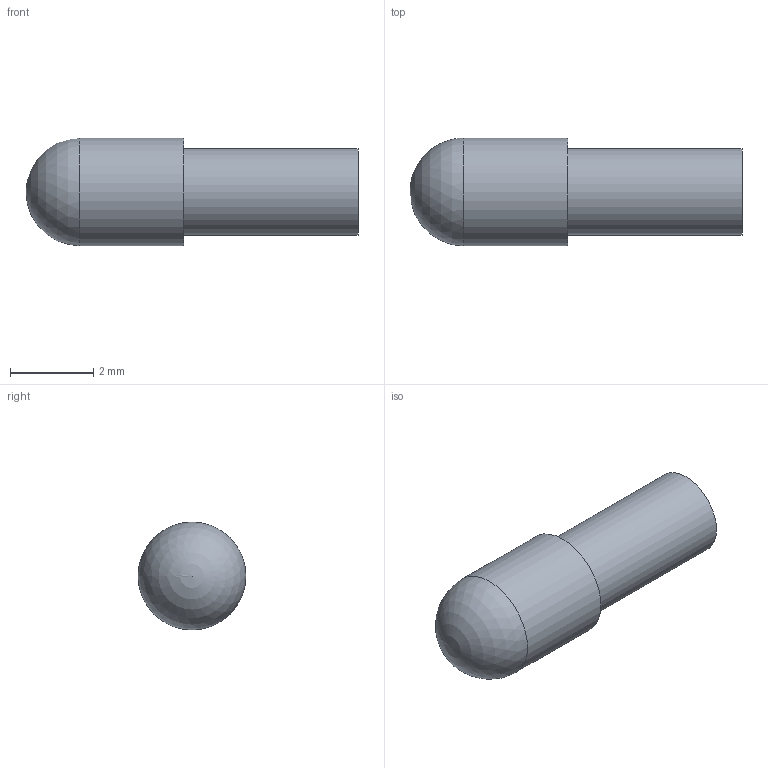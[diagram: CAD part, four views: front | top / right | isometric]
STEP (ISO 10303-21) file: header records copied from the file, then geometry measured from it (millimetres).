
FILE_DESCRIPTION( ( 'STEP AP203' ), '1' );
FILE_NAME( 'C:/Temp/Ganter_Step_05_03_2020/data/3_1/gn610/Spring loaded shell GN 610-2,6-8-H.stp', '2020-03-12T08:33:17', ( 'License CC BY-ND 4.0' ), ( 'CADENAS' ), ' ', 'PARTsolutions', ' ' );
FILE_SCHEMA( ( 'CONFIG_CONTROL_DESIGN' ) );
Length unit declared in the file: millimetre
Products named in the file (1): _Spring loaded shell GN 610-2,6-8-H
Bounding box: 8 x 2.6 x 2.6 mm (x, y, z)
Volume: 20.5 mm3; surface area: 88.6 mm2
Topology: 1 solids, 1 shells, 7 faces, 11 edges, 7 vertices
Faces by surface type: cylinder 3, plane 3, sphere 1
Full cylindrical faces by diameter (mm): 1.88 x1, 2.08 x1, 2.6 x1
Entity records: 182 total; most frequent: DIRECTION 28, CARTESIAN_POINT 21, AXIS2_PLACEMENT_3D 14, EDGE_LOOP 12, ORIENTED_EDGE 12, FACE_OUTER_BOUND 10, ADVANCED_FACE 7, VERTEX_POINT 7
